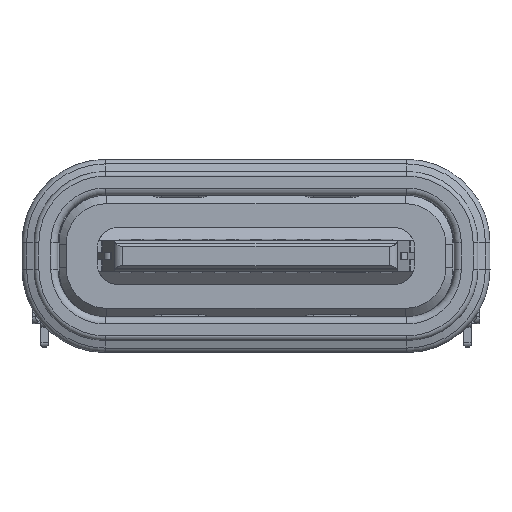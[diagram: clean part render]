
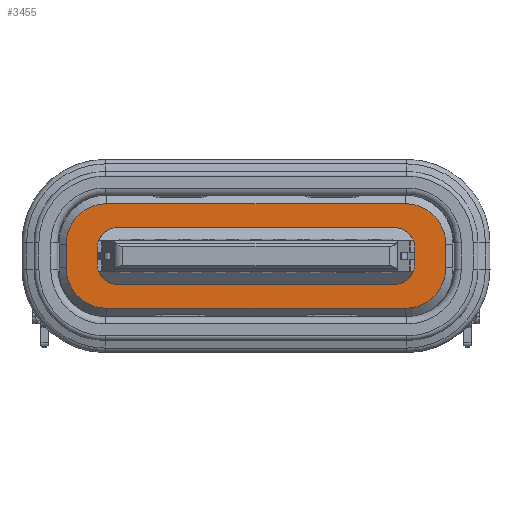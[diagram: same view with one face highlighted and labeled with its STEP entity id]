
A CAD part, front view. The second image highlights one B-rep face of the part: STEP entity #3455.
In plain terms, the highlighted planar face has unit normal (0, -1, 0).
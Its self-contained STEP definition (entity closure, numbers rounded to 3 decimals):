
#2067=CARTESIAN_POINT('',(74.995,4.695,0.97));
#2068=VERTEX_POINT('',#2067);
#2075=CARTESIAN_POINT('',(75.445,4.695,1.42));
#2076=VERTEX_POINT('',#2075);
#2077=CARTESIAN_POINT('',(74.995,4.695,1.42));
#2078=DIRECTION('',(0.0,1.0,0.0));
#2079=DIRECTION('',(1.0,0.0,-0.0));
#2080=AXIS2_PLACEMENT_3D('',#2077,#2078,#2079);
#2081=CIRCLE('',#2080,0.45);
#2082=EDGE_CURVE('no 43309',#2076,#2068,#2081,.T.);
#2779=CARTESIAN_POINT('',(68.755,4.695,1.42));
#2780=VERTEX_POINT('',#2779);
#2787=CARTESIAN_POINT('',(69.205,4.695,0.97));
#2788=VERTEX_POINT('',#2787);
#2789=CARTESIAN_POINT('',(69.205,4.695,1.42));
#2790=DIRECTION('',(0.0,1.0,0.0));
#2791=DIRECTION('',(0.,0.0,-1.0));
#2792=AXIS2_PLACEMENT_3D('',#2789,#2790,#2791);
#2793=CIRCLE('',#2792,0.45);
#2794=EDGE_CURVE('no 24240',#2788,#2780,#2793,.T.);
#3179=CARTESIAN_POINT('',(74.995,4.695,0.97));
#3180=DIRECTION('',(-1.0,0.0,0.0));
#3181=VECTOR('',#3180,1.0);
#3182=LINE('',#3179,#3181);
#3183=EDGE_CURVE('no 20041',#2068,#2788,#3182,.T.);
#3335=CARTESIAN_POINT('',(68.105,4.695,1.32));
#3336=VERTEX_POINT('',#3335);
#3337=CARTESIAN_POINT('',(68.105,4.695,1.82));
#3338=VERTEX_POINT('',#3337);
#3339=CARTESIAN_POINT('',(68.105,4.695,1.32));
#3340=DIRECTION('',(0.,-0.0,1.0));
#3341=VECTOR('',#3340,1.0);
#3342=LINE('',#3339,#3341);
#3343=EDGE_CURVE('no 15750',#3336,#3338,#3342,.T.);
#3344=ORIENTED_EDGE('no 18044',*,*,#3343,.F.);
#3345=CARTESIAN_POINT('',(68.955,4.695,0.47));
#3346=VERTEX_POINT('',#3345);
#3347=CARTESIAN_POINT('',(68.955,4.695,1.32));
#3348=DIRECTION('',(-0.0,-1.0,0.0));
#3349=DIRECTION('',(-1.0,0.0,-0.0));
#3350=AXIS2_PLACEMENT_3D('',#3347,#3348,#3349);
#3351=CIRCLE('',#3350,0.85);
#3352=EDGE_CURVE('no 1176',#3336,#3346,#3351,.T.);
#3353=ORIENTED_EDGE('no 31913',*,*,#3352,.T.);
#3354=CARTESIAN_POINT('',(75.245,4.695,0.47));
#3355=VERTEX_POINT('',#3354);
#3356=CARTESIAN_POINT('',(75.245,4.695,0.47));
#3357=DIRECTION('',(-1.0,0.0,-0.0));
#3358=VECTOR('',#3357,1.0);
#3359=LINE('',#3356,#3358);
#3360=EDGE_CURVE('no 34552',#3355,#3346,#3359,.T.);
#3361=ORIENTED_EDGE('no 41204',*,*,#3360,.F.);
#3362=CARTESIAN_POINT('',(76.095,4.695,1.32));
#3363=VERTEX_POINT('',#3362);
#3364=CARTESIAN_POINT('',(75.245,4.695,1.32));
#3365=DIRECTION('',(0.0,-1.0,0.0));
#3366=DIRECTION('',(0.0,0.0,-1.0));
#3367=AXIS2_PLACEMENT_3D('',#3364,#3365,#3366);
#3368=CIRCLE('',#3367,0.85);
#3369=EDGE_CURVE('no 11553',#3355,#3363,#3368,.T.);
#3370=ORIENTED_EDGE('no 25172',*,*,#3369,.T.);
#3371=CARTESIAN_POINT('',(76.095,4.695,1.82));
#3372=VERTEX_POINT('',#3371);
#3373=CARTESIAN_POINT('',(76.095,4.695,1.82));
#3374=DIRECTION('',(0.,0.0,-1.0));
#3375=VECTOR('',#3374,1.0);
#3376=LINE('',#3373,#3375);
#3377=EDGE_CURVE('no 25163',#3372,#3363,#3376,.T.);
#3378=ORIENTED_EDGE('no 29470',*,*,#3377,.F.);
#3379=CARTESIAN_POINT('',(75.245,4.695,2.67));
#3380=VERTEX_POINT('',#3379);
#3381=CARTESIAN_POINT('',(75.245,4.695,1.82));
#3382=DIRECTION('',(0.0,-1.0,-0.0));
#3383=DIRECTION('',(1.0,0.0,0.));
#3384=AXIS2_PLACEMENT_3D('',#3381,#3382,#3383);
#3385=CIRCLE('',#3384,0.85);
#3386=EDGE_CURVE('no 43908',#3372,#3380,#3385,.T.);
#3387=ORIENTED_EDGE('no 37190',*,*,#3386,.T.);
#3388=CARTESIAN_POINT('',(68.955,4.695,2.67));
#3389=VERTEX_POINT('',#3388);
#3390=CARTESIAN_POINT('',(68.955,4.695,2.67));
#3391=DIRECTION('',(1.0,-0.0,0.0));
#3392=VECTOR('',#3391,1.0);
#3393=LINE('',#3390,#3392);
#3394=EDGE_CURVE('no 13642',#3389,#3380,#3393,.T.);
#3395=ORIENTED_EDGE('no 224',*,*,#3394,.F.);
#3396=CARTESIAN_POINT('',(68.955,4.695,1.82));
#3397=DIRECTION('',(-0.0,-1.0,-0.0));
#3398=DIRECTION('',(0.,-0.0,1.0));
#3399=AXIS2_PLACEMENT_3D('',#3396,#3397,#3398);
#3400=CIRCLE('',#3399,0.85);
#3401=EDGE_CURVE('no 31184',#3389,#3338,#3400,.T.);
#3402=ORIENTED_EDGE('no 1058',*,*,#3401,.T.);
#3403=EDGE_LOOP('',(#3344,#3353,#3361,#3370,#3378,#3387,#3395,#3402));
#3404=FACE_OUTER_BOUND('',#3403,.T.);
#3405=CARTESIAN_POINT('',(68.755,4.695,1.72));
#3406=VERTEX_POINT('',#3405);
#3407=CARTESIAN_POINT('',(68.755,4.695,1.42));
#3408=DIRECTION('',(0.0,0.0,1.0));
#3409=VECTOR('',#3408,1.0);
#3410=LINE('',#3407,#3409);
#3411=EDGE_CURVE('no 7726',#2780,#3406,#3410,.T.);
#3412=ORIENTED_EDGE('no 27553',*,*,#3411,.T.);
#3413=CARTESIAN_POINT('',(69.205,4.695,2.17));
#3414=VERTEX_POINT('',#3413);
#3415=CARTESIAN_POINT('',(69.205,4.695,1.72));
#3416=DIRECTION('',(0.0,1.0,0.0));
#3417=DIRECTION('',(-1.0,0.0,0.0));
#3418=AXIS2_PLACEMENT_3D('',#3415,#3416,#3417);
#3419=CIRCLE('',#3418,0.45);
#3420=EDGE_CURVE('no 22270',#3406,#3414,#3419,.T.);
#3421=ORIENTED_EDGE('no 43598',*,*,#3420,.T.);
#3422=CARTESIAN_POINT('',(74.995,4.695,2.17));
#3423=VERTEX_POINT('',#3422);
#3424=CARTESIAN_POINT('',(69.205,4.695,2.17));
#3425=DIRECTION('',(1.0,0.0,-0.0));
#3426=VECTOR('',#3425,1.0);
#3427=LINE('',#3424,#3426);
#3428=EDGE_CURVE('no 30774',#3414,#3423,#3427,.T.);
#3429=ORIENTED_EDGE('no 24268',*,*,#3428,.T.);
#3430=CARTESIAN_POINT('',(75.445,4.695,1.72));
#3431=VERTEX_POINT('',#3430);
#3432=CARTESIAN_POINT('',(74.995,4.695,1.72));
#3433=DIRECTION('',(0.0,1.0,0.0));
#3434=DIRECTION('',(0.,0.0,1.0));
#3435=AXIS2_PLACEMENT_3D('',#3432,#3433,#3434);
#3436=CIRCLE('',#3435,0.45);
#3437=EDGE_CURVE('no 36963',#3423,#3431,#3436,.T.);
#3438=ORIENTED_EDGE('no 4308',*,*,#3437,.T.);
#3439=CARTESIAN_POINT('',(75.445,4.695,1.72));
#3440=DIRECTION('',(0.,0.0,-1.0));
#3441=VECTOR('',#3440,1.0);
#3442=LINE('',#3439,#3441);
#3443=EDGE_CURVE('no 39100',#3431,#2076,#3442,.T.);
#3444=ORIENTED_EDGE('no 25774',*,*,#3443,.T.);
#3445=ORIENTED_EDGE('no 44000',*,*,#2082,.T.);
#3446=ORIENTED_EDGE('no 3566',*,*,#3183,.T.);
#3447=ORIENTED_EDGE('no 26682',*,*,#2794,.T.);
#3448=EDGE_LOOP('',(#3412,#3421,#3429,#3438,#3444,#3445,#3446,#3447));
#3449=FACE_BOUND('',#3448,.T.);
#3450=CARTESIAN_POINT('',(76.297,4.695,0.413));
#3451=DIRECTION('',(0.0,-1.0,0.0));
#3452=DIRECTION('',(0.0,0.0,-1.0));
#3453=AXIS2_PLACEMENT_3D('',#3450,#3451,#3452);
#3454=PLANE('',#3453);
#3455=ADVANCED_FACE('no 47915',(#3404,#3449),#3454,.T.);
